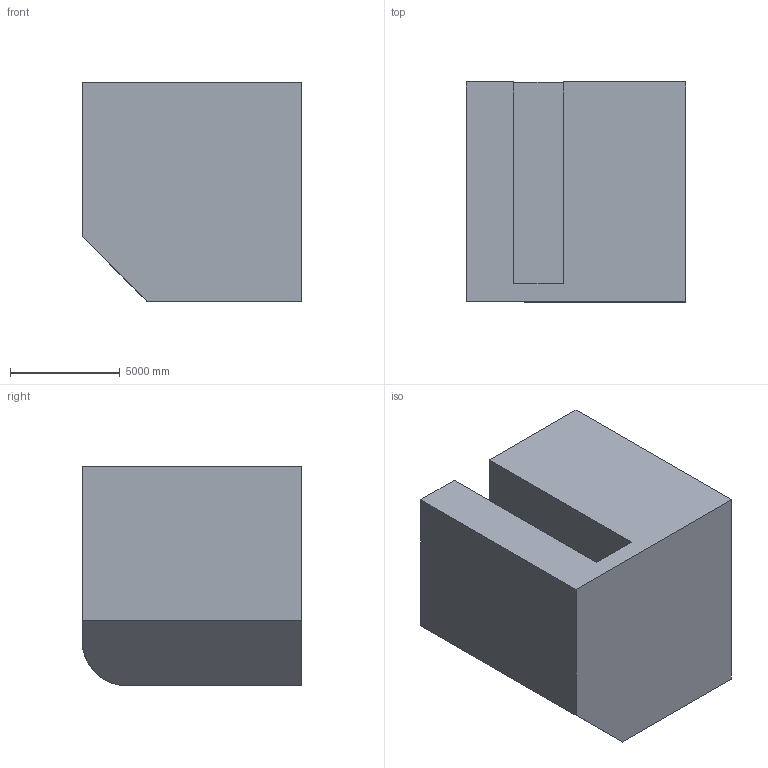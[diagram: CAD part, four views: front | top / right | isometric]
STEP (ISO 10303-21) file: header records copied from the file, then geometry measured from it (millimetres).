
FILE_DESCRIPTION (( 'STEP AP203' ), '1' );
FILE_NAME ('130.STEP', '2022-09-06T13:20:47', ( 'user' ), ( '' ), 'SwSTEP 2.0', 'SolidWorks 2021', '' );
FILE_SCHEMA (( 'CONFIG_CONTROL_DESIGN' ));
Length unit declared in the file: centimetre
Products named in the file (1): 130
Bounding box: 10000 x 10000 x 10000 mm (x, y, z)
Volume: 860522194409.3 mm3; surface area: 658118870.7 mm2
Topology: 1 solids, 1 shells, 17 faces, 42 edges, 28 vertices
Faces by surface type: plane 16, cylinder 1
Entity records: 574 total; most frequent: CARTESIAN_POINT 91, ORIENTED_EDGE 84, DIRECTION 78, EDGE_CURVE 42, LINE 40, VECTOR 40, VERTEX_POINT 28, AXIS2_PLACEMENT_3D 19
